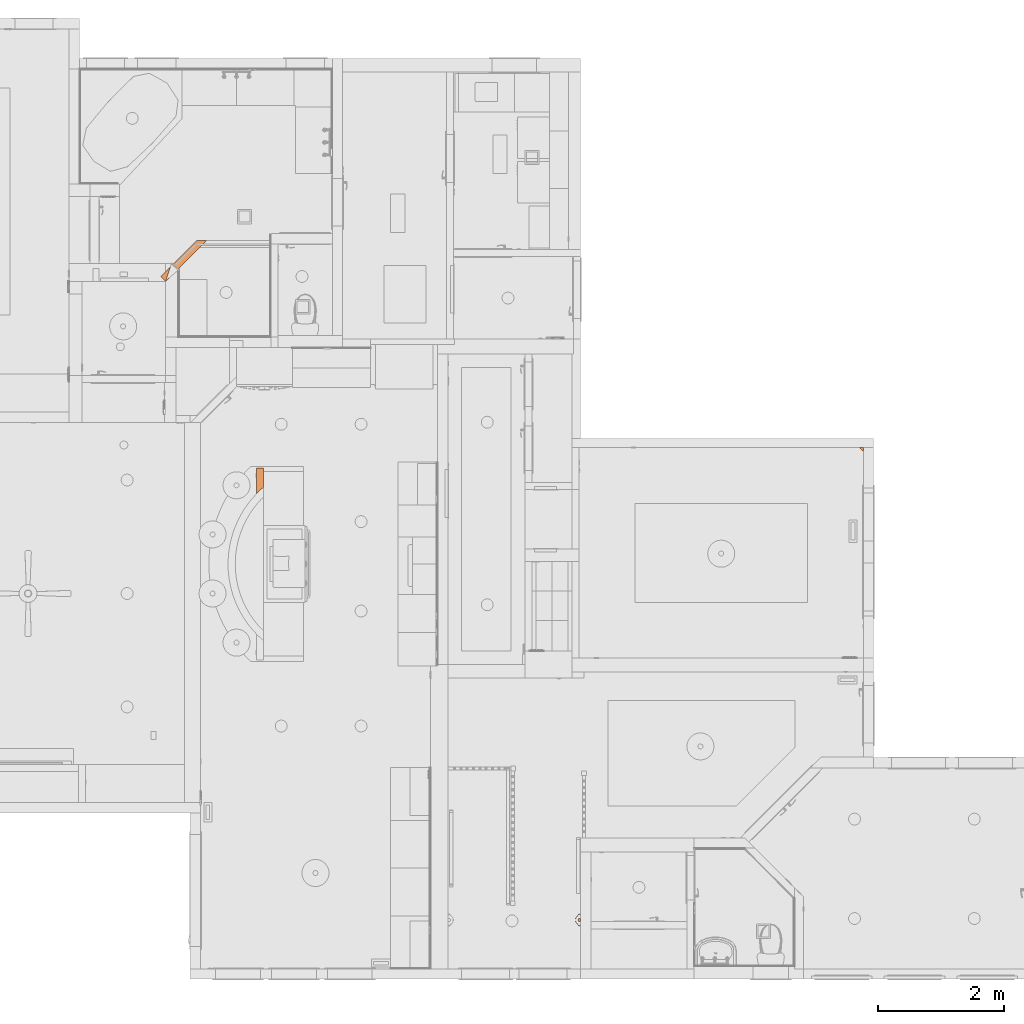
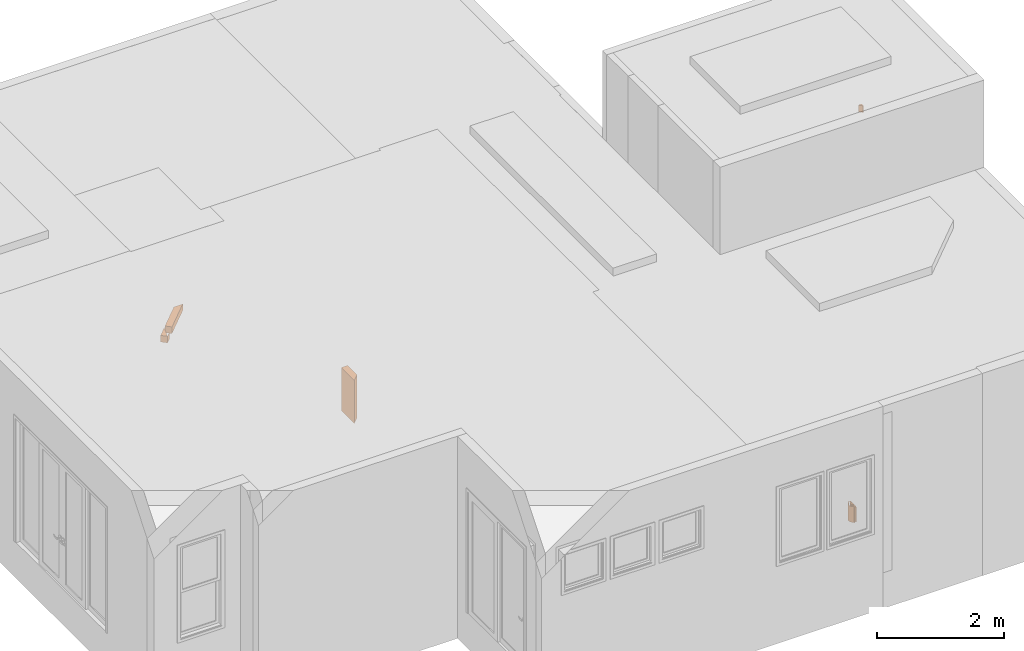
# One storey, part 103 of 103: 4 proxies.
"""IFC2X3 building model written with IfcOpenShell, lengths in inches."""

import ifcopenshell
import ifcopenshell.guid

model = None  # the IFC model being written
_history = None  # IfcOwnerHistory: only IFC2X3 demands one
_inside = {}  # id of a spatial element -> (the spatial element, [elements in it])
_under = {}  # id of a project, library or spatial element -> (it, [spatial elements below it])
_declared = {}  # id of a project -> (the project, [libraries it declares])
_typed = {}  # id of a type object -> (the type object, [elements of that type])
_made_of = {}  # id of a material, layer set ... -> (it, [elements and type objects made of it])


def new_model(schema):
    """Start an empty IFC model of exactly this schema.

    Asked for "IFC4X3", IfcOpenShell would pick the latest addendum, in which some entities
    have other attributes; the version numbers below select the first issue.
    IFC2X3 requires an IfcOwnerHistory on every rooted entity: one is made here for all.
    """
    global model, _history
    if schema == "IFC4X3":
        model = ifcopenshell.file(schema_version=(4, 3, 0, 0))
    else:
        model = ifcopenshell.file(schema=schema)
    _inside.clear()
    _under.clear()
    _declared.clear()
    _typed.clear()
    _made_of.clear()
    _history = None
    if model.schema == "IFC2X3":
        org = make("IfcOrganization", Name="unknown")
        user = make(
            "IfcPersonAndOrganization",
            ThePerson=make("IfcPerson", FamilyName="unknown"),
            TheOrganization=org,
        )
        app = make(
            "IfcApplication",
            ApplicationDeveloper=org,
            Version="unknown",
            ApplicationFullName="unknown",
            ApplicationIdentifier="unknown",
        )
        _history = make(
            "IfcOwnerHistory",
            OwningUser=user,
            OwningApplication=app,
            ChangeAction="ADDED",
            CreationDate=0,
        )
    return model


def make(cls, **values):
    """One entity of the class cls with the attributes given. An attribute that is None is left unset."""
    return model.create_entity(
        cls, **{name: value for name, value in values.items() if value is not None}
    )


def entity(cls, *values):
    """Any entity or typed value of the class cls, its attributes in the order of the schema. None: left unset."""
    e = model.create_entity(cls)
    for i, value in enumerate(values):
        if value is not None:
            e[i] = value
    return e


def rooted(cls, **values):
    """An entity with a GlobalId (a new one), such as an element, a storey or a relation."""
    return make(cls, GlobalId=ifcopenshell.guid.new(), OwnerHistory=_history, **values)


def si_unit(unit_type, name, prefix=None):
    """IfcSIUnit, for example si_unit("LENGTHUNIT", "METRE", prefix="MILLI")."""
    return make("IfcSIUnit", UnitType=unit_type, Prefix=prefix, Name=name)


def converted_unit(unit_type, name, factor, base, dimensions=None, offset=None):
    """IfcConversionBasedUnit, such as the inch: factor (a typed value) times the base unit."""
    return make(
        "IfcConversionBasedUnit"
        if offset is None
        else "IfcConversionBasedUnitWithOffset",
        ConversionOffset=offset,
        Dimensions=None
        if dimensions is None
        else entity("IfcDimensionalExponents", *dimensions),
        UnitType=unit_type,
        Name=name,
        ConversionFactor=make(
            "IfcMeasureWithUnit", ValueComponent=factor, UnitComponent=base
        ),
    )


def derived_unit(unit_type, elements):
    """IfcDerivedUnit: a product of units, each with its exponent."""
    return make(
        "IfcDerivedUnit",
        Elements=[
            make("IfcDerivedUnitElement", Unit=unit, Exponent=power)
            for unit, power in elements
        ],
        UnitType=unit_type,
    )


def money_unit(currency):
    """IfcMonetaryUnit."""
    return make("IfcMonetaryUnit", Currency=currency)


def assignment(units):
    """IfcUnitAssignment: the units of a project."""
    return None if units is None else make("IfcUnitAssignment", Units=units)


def point(xyz):
    """IfcCartesianPoint."""
    return None if xyz is None else make("IfcCartesianPoint", Coordinates=xyz)


def direction(xyz):
    """IfcDirection."""
    return None if xyz is None else make("IfcDirection", DirectionRatios=xyz)


def frame(location, z_axis=None, x_axis=None):
    """IfcAxis2Placement3D, a coordinate frame: its origin and axes. An axis left out is left unset."""
    return make(
        "IfcAxis2Placement3D",
        Location=point(location),
        Axis=direction(z_axis),
        RefDirection=direction(x_axis),
    )


def origin_with_axes():
    """The frame at (0, 0, 0) with the z axis (0, 0, 1) and the x axis (1, 0, 0) written out."""
    return frame((0.0, 0.0, 0.0), z_axis=(0.0, 0.0, 1.0), x_axis=(1.0, 0.0, 0.0))


def place(relative_to, where):
    """IfcLocalPlacement: puts the frame where relative to a parent placement (None: the world)."""
    return make(
        "IfcLocalPlacement", PlacementRelTo=relative_to, RelativePlacement=where
    )


def context(
    kind, dimensions, precision=None, world=None, true_north=None, identifier=None
):
    """IfcGeometricRepresentationContext, for example the 3D "Model" context."""
    return make(
        "IfcGeometricRepresentationContext",
        ContextIdentifier=identifier,
        ContextType=kind,
        CoordinateSpaceDimension=dimensions,
        Precision=precision,
        WorldCoordinateSystem=world,
        TrueNorth=true_north,
    )


def subcontext(parent, identifier, kind, view, scale=None):
    """IfcGeometricRepresentationSubContext, for example "Body" below "Model"."""
    return make(
        "IfcGeometricRepresentationSubContext",
        ContextIdentifier=identifier,
        ContextType=kind,
        ParentContext=parent,
        TargetScale=scale,
        TargetView=view,
    )


def project(units=None, contexts=None):
    """IfcProject with its units and contexts."""
    return rooted(
        "IfcProject",
        Name="project",
        RepresentationContexts=contexts,
        UnitsInContext=assignment(units),
    )


def spatial(cls, under=None, at=None, **own):
    """A site, building, storey or space (cls), placed at a placement, below another one or the project."""
    s = rooted(cls, ObjectPlacement=at, **own)
    if under is not None:
        _under.setdefault(under.id(), (under, []))[1].append(s)
    return s


def faces_of(points, faces, orient=None, outer=None):
    """IfcFace entities. A face is a list of loops; a loop is a list of indices into points, from 0.

    orient and outer hold one flag for each loop. By default every Orientation is true, the
    first loop of a face is its IfcFaceOuterBound and the others are IfcFaceBound.
    """
    made = []
    for i, loops in enumerate(faces):
        bounds = []
        for j, loop in enumerate(loops):
            is_outer = j == 0 if outer is None else outer[i][j]
            bounds.append(
                make(
                    "IfcFaceOuterBound" if is_outer else "IfcFaceBound",
                    Bound=make("IfcPolyLoop", Polygon=[points[k] for k in loop]),
                    Orientation=True if orient is None else orient[i][j],
                )
            )
        made.append(make("IfcFace", Bounds=bounds))
    return made


def faceted_brep(points, faces, orient=None, outer=None, voids=None):
    """IfcFacetedBrep: a solid bounded by flat faces; with voids (closed shells), ...WithVoids."""
    shared = [point(p) for p in points]
    hull = make("IfcClosedShell", CfsFaces=faces_of(shared, faces, orient, outer))
    if voids is None:
        return make("IfcFacetedBrep", Outer=hull)
    return make(
        "IfcFacetedBrepWithVoids",
        Outer=hull,
        Voids=[
            make(cls, CfsFaces=faces_of(shared, fs, o, b)) for cls, fs, o, b in voids
        ],
    )


def shape(context_of_items, identifier, shape_type, items):
    """IfcShapeRepresentation: the items that make up one representation, for example the "Body"."""
    return make(
        "IfcShapeRepresentation",
        ContextOfItems=context_of_items,
        RepresentationIdentifier=identifier,
        RepresentationType=shape_type,
        Items=items,
    )


def material(Name=None, Category=None):
    """IfcMaterial."""
    return make("IfcMaterial", Name=Name, Category=Category)


def made_of(thing, what):
    """Note that an element or type object is made of a material, layer set ...; save() writes the relation."""
    if what is not None:
        _made_of.setdefault(what.id(), (what, []))[1].append(thing)
    return thing


def type_object(cls, material=None, **own):
    """A type object (cls), such as IfcWallType, which elements share."""
    return made_of(rooted(cls, **own), material)


def element(
    cls,
    number,
    at=None,
    inside=None,
    cuts=None,
    type_object=None,
    material=None,
    context=None,
    identifier="Body",
    shape_type=None,
    held_by="IfcProductDefinitionShape",
    body=None,
    shapes=None,
    **own,
):
    """One element of the class cls, such as IfcWall. Its Tag is "e" and its number.

    at: its placement. inside: the storey or other place that contains it. cuts: it is an
    opening in that element (IfcRelVoidsElement). A single representation is given by context,
    identifier, shape_type and body (its items); several are given by shapes. held_by: the class
    of the entity that holds the representations. save() writes the other relations.
    """
    e = rooted(cls, Tag="e%d" % number, ObjectPlacement=at, **own)
    if body is not None:
        shapes = [shape(context, identifier, shape_type, body)]
    if shapes is not None:
        e.Representation = make(held_by, Representations=shapes)
    if inside is not None:
        _inside.setdefault(inside.id(), (inside, []))[1].append(e)
    if cuts is not None:
        rooted(
            "IfcRelVoidsElement", RelatingBuildingElement=cuts, RelatedOpeningElement=e
        )
    if type_object is not None:
        _typed.setdefault(type_object.id(), (type_object, []))[1].append(e)
    return made_of(e, material)


def aggregate(whole, parts):
    """IfcRelAggregates: a whole, such as a stair, and the parts it consists of."""
    return rooted("IfcRelAggregates", RelatingObject=whole, RelatedObjects=parts)


def save(model, path):
    """Write the relations noted so far, then the file.

    IfcRelAggregates (storeys below a building ...), IfcRelContainedInSpatialStructure (elements
    in a storey), IfcRelDefinesByType, IfcRelAssociatesMaterial and IfcRelDeclares: one each for
    every whole, place, type object, material and project.
    """
    for whole, parts in _under.values():
        aggregate(whole, parts)
    for where, things in _inside.values():
        rooted(
            "IfcRelContainedInSpatialStructure",
            RelatedElements=things,
            RelatingStructure=where,
        )
    for kind, things in _typed.values():
        rooted("IfcRelDefinesByType", RelatedObjects=things, RelatingType=kind)
    for what, things in _made_of.values():
        rooted("IfcRelAssociatesMaterial", RelatedObjects=things, RelatingMaterial=what)
    for by, libraries in _declared.values():
        rooted("IfcRelDeclares", RelatingContext=by, RelatedDefinitions=libraries)
    model.write(path)


model = new_model("IFC2X3")

# Units and contexts
model_context = context("Model", 3, precision=0.00039370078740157, world=origin_with_axes(), true_north=direction((0.0, 1.0)))
plan_context = context("Plan", 3, precision=0.00039370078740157, world=origin_with_axes(), true_north=direction((0.0, 1.0)))
body_context = subcontext(model_context, "Body", "Model", "MODEL_VIEW")
ifc_project = project(units=[converted_unit("LENGTHUNIT", "INCH", entity("IfcPositiveLengthMeasure", 0.0254), si_unit("LENGTHUNIT", "METRE"), dimensions=[1, 0, 0, 0, 0, 0, 0]), converted_unit("AREAUNIT", "SQUARE_FOOT", entity("IfcPositiveLengthMeasure", 0.09290304), si_unit("AREAUNIT", "SQUARE_METRE"), dimensions=[2, 0, 0, 0, 0, 0, 0]), si_unit("PLANEANGLEUNIT", "RADIAN"), si_unit("SOLIDANGLEUNIT", "STERADIAN"), money_unit("USD"), converted_unit("TIMEUNIT", "Year", entity("IfcTimeMeasure", 31557600.0), si_unit("TIMEUNIT", "SECOND"), dimensions=[0, 0, 1, 0, 0, 0, 0]), si_unit("MASSUNIT", "GRAM", prefix="KILO"), si_unit("THERMODYNAMICTEMPERATUREUNIT", "DEGREE_CELSIUS"), si_unit("LUMINOUSINTENSITYUNIT", "LUMEN"), si_unit("ENERGYUNIT", "JOULE", prefix="MEGA"), derived_unit("SPECIFICHEATCAPACITYUNIT", [(si_unit("ENERGYUNIT", "JOULE"), 1), (si_unit("MASSUNIT", "GRAM", prefix="KILO"), -1), (si_unit("THERMODYNAMICTEMPERATUREUNIT", "KELVIN"), -1)])], contexts=[model_context, plan_context])

# Site, building, storey
site_placement = place(None, origin_with_axes())
site = spatial("IfcSite", under=ifc_project, at=site_placement, Name="Site", CompositionType="ELEMENT")
building_placement = place(site_placement, origin_with_axes())
building = spatial("IfcBuilding", under=site, at=building_placement, Name="Building", CompositionType="ELEMENT")
storey_placement = place(building_placement, frame((0.0, 0.0, 127.9999999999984), z_axis=(0.0, 0.0, 1.0), x_axis=(1.0, 0.0, 0.0)))
storey = spatial("IfcBuildingStorey", under=building, at=storey_placement, Name="Second Floor", CompositionType="ELEMENT", Elevation=128.0)

# Proxies
ifc_material = material(Name="Generic - Structural")
building_element_proxy_type_1 = type_object("IfcBuildingElementProxyType", Name="Generic - Structural 4 1/2\"", PredefinedType="NOTDEFINED")
proxy_1_placement = place(storey_placement, frame((45.99966176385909, 301.9951834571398, -5.999999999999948), z_axis=(0.0, 0.0, 1.0), x_axis=(0.0, 1.0, 0.0)))
element("IfcBuildingElementProxy", 1, at=proxy_1_placement, inside=storey, type_object=building_element_proxy_type_1, material=ifc_material, Name="SW - 120", context=body_context, shape_type="Brep", body=[
    faceted_brep([(6.085956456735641, 0.0, 38.4978682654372), (6.085956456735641, 0.0, 5.999999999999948), (17.99999999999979, 0.0, 5.999999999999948), (17.99999999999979, 0.0, 38.4978682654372), (5.044919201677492, 1.265502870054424, 38.4978682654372), (5.044919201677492, 1.265502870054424, 5.999999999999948), (1.901869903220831, 4.499999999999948, 5.999999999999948), (17.99999999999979, 4.499999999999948, 5.999999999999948), (3.227275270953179, 3.136031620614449, 5.999999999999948), (17.99999999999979, 4.499999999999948, 38.4978682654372), (1.901869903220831, 4.499999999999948, 38.4978682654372), (3.227275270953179, 3.136031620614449, 38.4978682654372)], [[[0, 1, 2, 3]], [[4, 5, 1, 0]], [[6, 7, 2, 1, 5, 8]], [[3, 2, 7, 9]], [[9, 10, 11, 4, 0, 3]], [[11, 8, 5, 4]], [[9, 7, 6, 10]], [[10, 6, 8, 11]]]),
])
proxy_2_placement = place(storey_placement, frame((-7.843438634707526, 444.3240572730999, -5.99999999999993), z_axis=(0.0, 0.0, 1.0), x_axis=(0.7071067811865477, 0.7071067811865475, 0.0)))
element("IfcBuildingElementProxy", 2, at=proxy_2_placement, inside=storey, type_object=building_element_proxy_type_1, material=ifc_material, Name="SW - 137", context=body_context, shape_type="Brep", body=[
    faceted_brep([(-10.50484508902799, 0.0, 10.99999999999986), (-10.50484508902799, 0.0, 5.99999999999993), (-6.307748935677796, 4.656292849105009e-10, 5.99999999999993), (-6.30774893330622, 0.0, 10.99999999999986), (-10.64172000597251, 4.499999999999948, 10.99999999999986), (-10.64172000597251, 4.499999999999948, 5.99999999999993), (-1.87419043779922, 4.499999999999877, 5.99999999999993), (-10.22995509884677, 0.292422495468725, 5.99999999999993), (-10.22995509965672, 0.2924224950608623, 10.99999999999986), (-1.87419043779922, 4.499999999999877, 10.99999999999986)], [[[0, 1, 2, 3]], [[1, 0, 4, 5]], [[5, 6, 7, 2, 1]], [[2, 7, 8, 3]], [[0, 3, 8, 9, 4]], [[5, 4, 9, 6]], [[8, 7, 6, 9]]]),
    faceted_brep([(1.094606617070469e-05, -8.340484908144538e-10, 10.99999999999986), (1.093592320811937e-05, 3.326341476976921e-07, 5.99999999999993), (25.70466019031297, 0.0, 5.99999999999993), (25.70466019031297, 0.0, 10.99999999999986), (-0.1368639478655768, 4.499999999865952, 10.99999999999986), (-0.1368639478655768, 4.499999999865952, 5.99999999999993), (0.0, 4.499999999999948, 5.99999999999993), (21.20466019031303, 4.499999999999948, 5.99999999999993), (21.20466019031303, 4.499999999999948, 10.99999999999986)], [[[0, 1, 2, 3]], [[4, 5, 1, 0]], [[6, 7, 2, 1, 5]], [[3, 2, 7, 8]], [[3, 8, 4, 0]], [[8, 7, 6, 5, 4]]]),
])
building_element_proxy_type_2 = type_object("IfcBuildingElementProxyType", Name="Wall Lamp", PredefinedType="NOTDEFINED")
proxy_3_placement = place(storey_placement, frame((244.4999999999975, 37.07838519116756, 17.99999999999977), z_axis=(0.0, 0.0, 1.0), x_axis=(0.0, -1.0, 0.0)))
element("IfcBuildingElementProxy", 3, at=proxy_3_placement, inside=storey, type_object=building_element_proxy_type_2, Name="L-17", context=body_context, shape_type="Brep", body=[
    faceted_brep([(-3.9370078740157, -1.062992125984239, 0.0), (-3.9370078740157, -1.062992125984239, 11.99999999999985), (-3.591991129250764, -1.063143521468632, 11.99999999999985), (-3.591991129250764, -1.063143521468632, 0.0), (-3.9370078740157, -1.18110236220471, 0.0), (-3.9370078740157, -1.18110236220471, 11.99999999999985), (-3.54330708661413, -1.18110236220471, 11.99999999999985), (-3.389692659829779, -1.196232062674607, 11.99999999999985), (-3.241981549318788, -1.241039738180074, 11.99999999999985), (-3.105850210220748, -1.31380345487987, 11.99999999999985), (-2.986530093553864, -1.411726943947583, 11.99999999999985), (-2.669665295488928, -1.945564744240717, 11.99999999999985), (-2.258517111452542, -2.410691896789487, 11.99999999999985), (-1.767605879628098, -2.790681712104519, 11.99999999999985), (-1.214268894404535, -3.072114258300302, 11.99999999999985), (-0.6180481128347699, -3.245050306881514, 11.99999999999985), (0.0, -3.30338235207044, 11.99999999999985), (0.0, -3.14960629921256, 11.99999999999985), (-0.5658852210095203, -3.098353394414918, 11.99999999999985), (-1.113353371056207, -2.946262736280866, 11.99999999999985), (-1.624586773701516, -2.698284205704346, 11.99999999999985), (-2.082947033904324, -2.362488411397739, 11.99999999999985), (-2.47351654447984, -1.949804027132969, 11.99999999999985), (-2.783583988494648, -1.473662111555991, 11.99999999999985), (-2.903069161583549, -1.326520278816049, 11.99999999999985), (-3.050535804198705, -1.207436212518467, 11.99999999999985), (-3.219538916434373, -1.121614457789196, 11.99999999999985), (-3.402692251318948, -1.072805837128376, 11.99999999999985), (-3.402692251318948, -1.072805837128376, 0.0), (-3.219538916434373, -1.121614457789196, 0.0), (-3.050535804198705, -1.207436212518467, 0.0), (-2.903069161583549, -1.326520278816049, 0.0), (-2.783583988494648, -1.473662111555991, 0.0), (-2.47351654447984, -1.949804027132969, 0.0), (-2.082947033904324, -2.362488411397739, 0.0), (-1.624586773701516, -2.698284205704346, 0.0), (-1.113353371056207, -2.946262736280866, 0.0), (-0.5658852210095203, -3.098353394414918, 0.0), (0.0, -3.14960629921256, 0.0), (0.0, -3.30338235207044, 0.0), (-0.6180481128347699, -3.245050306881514, 0.0), (-1.214268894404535, -3.072114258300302, 0.0), (-1.767605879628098, -2.790681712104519, 0.0), (-2.258517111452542, -2.410691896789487, 0.0), (-2.669665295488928, -1.945564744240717, 0.0), (-2.986530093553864, -1.411726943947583, 0.0), (-3.105850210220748, -1.31380345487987, 0.0), (-3.241981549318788, -1.241039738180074, 0.0), (-3.389692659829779, -1.196232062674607, 0.0), (-3.54330708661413, -1.18110236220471, 0.0)], [[[0, 1, 2, 3]], [[4, 5, 1, 0]], [[1, 5, 6, 7, 8, 9, 10, 11, 12, 13, 14, 15, 16, 17, 18, 19, 20, 21, 22, 23, 24, 25, 26, 27, 2]], [[3, 2, 27, 28]], [[0, 3, 28, 29, 30, 31, 32, 33, 34, 35, 36, 37, 38, 39, 40, 41, 42, 43, 44, 45, 46, 47, 48, 49, 4]], [[49, 6, 5, 4]], [[48, 7, 6, 49]], [[47, 8, 7, 48]], [[46, 9, 8, 47]], [[45, 10, 9, 46]], [[44, 11, 10, 45]], [[43, 12, 11, 44]], [[42, 13, 12, 43]], [[41, 14, 13, 42]], [[40, 15, 14, 41]], [[39, 16, 15, 40]], [[38, 17, 16, 39]], [[37, 18, 17, 38]], [[36, 19, 18, 37]], [[35, 20, 19, 36]], [[34, 21, 20, 35]], [[33, 22, 21, 34]], [[32, 23, 22, 33]], [[31, 24, 23, 32]], [[30, 25, 24, 31]], [[29, 26, 25, 30]], [[28, 27, 26, 29]]]),
    faceted_brep([(3.9370078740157, -1.062992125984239, 0.0), (3.591991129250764, -1.063143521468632, 0.0), (3.591991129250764, -1.063143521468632, 11.99999999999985), (3.9370078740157, -1.062992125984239, 11.99999999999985), (3.9370078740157, -1.18110236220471, 0.0), (3.54330708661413, -1.18110236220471, 0.0), (3.389692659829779, -1.196232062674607, 0.0), (3.241981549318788, -1.241039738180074, 0.0), (3.105850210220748, -1.31380345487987, 0.0), (2.986530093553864, -1.411726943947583, 0.0), (2.669665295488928, -1.945564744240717, 0.0), (2.258517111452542, -2.410691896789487, 0.0), (1.767605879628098, -2.790681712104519, 0.0), (1.214268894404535, -3.072114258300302, 0.0), (0.6180481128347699, -3.245050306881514, 0.0), (0.0, -3.30338235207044, 0.0), (0.0, -3.14960629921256, 0.0), (0.5658852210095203, -3.098353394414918, 0.0), (1.113353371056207, -2.946262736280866, 0.0), (1.624586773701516, -2.698284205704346, 0.0), (2.082947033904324, -2.362488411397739, 0.0), (2.47351654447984, -1.949804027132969, 0.0), (2.783583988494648, -1.473662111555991, 0.0), (2.903069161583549, -1.326520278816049, 0.0), (3.050535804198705, -1.207436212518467, 0.0), (3.219538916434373, -1.121614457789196, 0.0), (3.402692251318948, -1.072805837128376, 0.0), (3.402692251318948, -1.072805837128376, 11.99999999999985), (3.219538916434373, -1.121614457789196, 11.99999999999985), (3.050535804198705, -1.207436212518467, 11.99999999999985), (2.903069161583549, -1.326520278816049, 11.99999999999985), (2.783583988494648, -1.473662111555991, 11.99999999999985), (2.47351654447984, -1.949804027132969, 11.99999999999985), (2.082947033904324, -2.362488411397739, 11.99999999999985), (1.624586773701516, -2.698284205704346, 11.99999999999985), (1.113353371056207, -2.946262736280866, 11.99999999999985), (0.5658852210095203, -3.098353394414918, 11.99999999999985), (0.0, -3.14960629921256, 11.99999999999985), (0.0, -3.30338235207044, 11.99999999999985), (0.6180481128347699, -3.245050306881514, 11.99999999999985), (1.214268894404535, -3.072114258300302, 11.99999999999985), (1.767605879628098, -2.790681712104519, 11.99999999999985), (2.258517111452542, -2.410691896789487, 11.99999999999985), (2.669665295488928, -1.945564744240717, 11.99999999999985), (2.986530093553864, -1.411726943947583, 11.99999999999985), (3.105850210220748, -1.31380345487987, 11.99999999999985), (3.241981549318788, -1.241039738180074, 11.99999999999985), (3.389692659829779, -1.196232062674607, 11.99999999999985), (3.54330708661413, -1.18110236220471, 11.99999999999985), (3.9370078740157, -1.18110236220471, 11.99999999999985)], [[[0, 1, 2, 3]], [[0, 4, 5, 6, 7, 8, 9, 10, 11, 12, 13, 14, 15, 16, 17, 18, 19, 20, 21, 22, 23, 24, 25, 26, 1]], [[1, 26, 27, 2]], [[3, 2, 27, 28, 29, 30, 31, 32, 33, 34, 35, 36, 37, 38, 39, 40, 41, 42, 43, 44, 45, 46, 47, 48, 49]], [[4, 0, 3, 49]], [[5, 4, 49, 48]], [[6, 5, 48, 47]], [[7, 6, 47, 46]], [[8, 7, 46, 45]], [[9, 8, 45, 44]], [[10, 9, 44, 43]], [[11, 10, 43, 42]], [[12, 11, 42, 41]], [[13, 12, 41, 40]], [[14, 13, 40, 39]], [[15, 14, 39, 38]], [[16, 15, 38, 37]], [[17, 16, 37, 36]], [[18, 17, 36, 35]], [[19, 18, 35, 34]], [[20, 19, 34, 33]], [[21, 20, 33, 32]], [[22, 21, 32, 31]], [[23, 22, 31, 30]], [[24, 23, 30, 29]], [[25, 24, 29, 28]], [[26, 25, 28, 27]]]),
    faceted_brep([(-3.14960629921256, 0.0, 0.0), (3.14960629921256, 0.0, 0.0), (3.14960629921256, -0.039370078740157, 0.0), (-3.14960629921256, -0.039370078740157, 0.0), (-3.303220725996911, 0.0, 0.01512970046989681), (-3.450931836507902, 0.0, 0.05993737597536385), (-3.587063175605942, 0.0, 0.1327010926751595), (-3.706383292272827, 0.0, 0.230624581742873), (-3.80430678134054, 0.0, 0.3499446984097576), (-3.877070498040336, 0.0, 0.4860760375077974), (-3.921878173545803, 0.0, 0.633787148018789), (-3.9370078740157, 0.0, 0.78740157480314), (-3.9370078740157, 0.0, 11.21259842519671), (-3.921878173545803, 0.0, 11.36621285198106), (-3.877070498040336, 0.0, 11.51392396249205), (-3.80430678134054, 0.0, 11.65005530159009), (-3.706383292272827, 0.0, 11.76937541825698), (-3.587063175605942, 0.0, 11.86729890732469), (-3.450931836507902, 0.0, 11.94006262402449), (-3.30322072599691, 0.0, 11.98487029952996), (-3.14960629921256, 0.0, 11.99999999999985), (3.14960629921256, 0.0, 11.99999999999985), (3.30322072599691, 0.0, 11.98487029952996), (3.450931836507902, 0.0, 11.94006262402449), (3.587063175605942, 0.0, 11.86729890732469), (3.706383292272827, 0.0, 11.76937541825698), (3.80430678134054, 0.0, 11.65005530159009), (3.877070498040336, 0.0, 11.51392396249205), (3.921878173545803, 0.0, 11.36621285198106), (3.9370078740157, 0.0, 11.21259842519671), (3.9370078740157, 0.0, 0.7874015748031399), (3.921878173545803, 0.0, 0.6337871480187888), (3.877070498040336, 0.0, 0.4860760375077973), (3.80430678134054, 0.0, 0.3499446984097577), (3.706383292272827, 0.0, 0.2306245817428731), (3.587063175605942, 0.0, 0.1327010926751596), (3.450931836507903, 0.0, 0.05993737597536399), (3.303220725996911, 0.0, 0.01512970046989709), (3.303220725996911, -0.039370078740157, 0.01512970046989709), (3.450931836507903, -0.039370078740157, 0.05993737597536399), (3.587063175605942, -0.03937007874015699, 0.1327010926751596), (3.706383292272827, -0.03937007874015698, 0.2306245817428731), (3.80430678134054, -0.03937007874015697, 0.3499446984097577), (3.877070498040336, -0.03937007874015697, 0.4860760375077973), (3.921878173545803, -0.03937007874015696, 0.6337871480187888), (3.9370078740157, -0.03937007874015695, 0.7874015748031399), (3.9370078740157, -0.03937007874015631, 11.21259842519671), (3.921878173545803, -0.0393700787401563, 11.36621285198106), (3.877070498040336, -0.03937007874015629, 11.51392396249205), (3.80430678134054, -0.03937007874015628, 11.65005530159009), (3.706383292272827, -0.03937007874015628, 11.76937541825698), (3.587063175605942, -0.03937007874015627, 11.86729890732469), (3.450931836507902, -0.03937007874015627, 11.94006262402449), (3.30322072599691, -0.03937007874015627, 11.98487029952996), (3.14960629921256, -0.03937007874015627, 11.99999999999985), (-3.14960629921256, -0.03937007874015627, 11.99999999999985), (-3.30322072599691, -0.03937007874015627, 11.98487029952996), (-3.450931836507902, -0.03937007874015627, 11.94006262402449), (-3.587063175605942, -0.03937007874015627, 11.86729890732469), (-3.706383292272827, -0.03937007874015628, 11.76937541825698), (-3.80430678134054, -0.03937007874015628, 11.65005530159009), (-3.877070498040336, -0.03937007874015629, 11.51392396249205), (-3.921878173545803, -0.0393700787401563, 11.36621285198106), (-3.9370078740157, -0.03937007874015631, 11.21259842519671), (-3.9370078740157, -0.03937007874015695, 0.78740157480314), (-3.921878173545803, -0.03937007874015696, 0.633787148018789), (-3.877070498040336, -0.03937007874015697, 0.4860760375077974), (-3.80430678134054, -0.03937007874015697, 0.3499446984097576), (-3.706383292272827, -0.03937007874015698, 0.230624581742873), (-3.587063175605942, -0.03937007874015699, 0.1327010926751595), (-3.450931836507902, -0.039370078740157, 0.05993737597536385), (-3.303220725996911, -0.039370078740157, 0.01512970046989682)], [[[0, 1, 2, 3]], [[0, 4, 5, 6, 7, 8, 9, 10, 11, 12, 13, 14, 15, 16, 17, 18, 19, 20, 21, 22, 23, 24, 25, 26, 27, 28, 29, 30, 31, 32, 33, 34, 35, 36, 37, 1]], [[1, 37, 38, 2]], [[3, 2, 38, 39, 40, 41, 42, 43, 44, 45, 46, 47, 48, 49, 50, 51, 52, 53, 54, 55, 56, 57, 58, 59, 60, 61, 62, 63, 64, 65, 66, 67, 68, 69, 70, 71]], [[4, 0, 3, 71]], [[5, 4, 71, 70]], [[6, 5, 70, 69]], [[7, 6, 69, 68]], [[8, 7, 68, 67]], [[9, 8, 67, 66]], [[10, 9, 66, 65]], [[11, 10, 65, 64]], [[12, 11, 64, 63]], [[13, 12, 63, 62]], [[14, 13, 62, 61]], [[15, 14, 61, 60]], [[16, 15, 60, 59]], [[17, 16, 59, 58]], [[18, 17, 58, 57]], [[19, 18, 57, 56]], [[20, 19, 56, 55]], [[21, 20, 55, 54]], [[22, 21, 54, 53]], [[23, 22, 53, 52]], [[24, 23, 52, 51]], [[25, 24, 51, 50]], [[26, 25, 50, 49]], [[27, 26, 49, 48]], [[28, 27, 48, 47]], [[29, 28, 47, 46]], [[30, 29, 46, 45]], [[31, 30, 45, 44]], [[32, 31, 44, 43]], [[33, 32, 43, 42]], [[34, 33, 42, 41]], [[35, 34, 41, 40]], [[36, 35, 40, 39]], [[37, 36, 39, 38]]]),
    faceted_brep([(-3.661417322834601, -0.03937007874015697, 0.39370078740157), (-3.661417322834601, -1.220472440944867, 0.3937007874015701), (-3.602362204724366, -1.220472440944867, 0.495987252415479), (-3.602362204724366, -0.03937007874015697, 0.4959872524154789), (-3.602362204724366, -0.03937007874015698, 0.291414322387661), (-3.602362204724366, -1.220472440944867, 0.2914143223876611), (-3.484251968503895, -1.220472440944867, 0.2914143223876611), (-3.425196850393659, -1.220472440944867, 0.3937007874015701), (-3.484251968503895, -1.220472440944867, 0.495987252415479), (-3.484251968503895, -0.03937007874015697, 0.495987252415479), (-3.425196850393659, -0.03937007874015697, 0.3937007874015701), (-3.484251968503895, -0.03937007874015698, 0.2914143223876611)], [[[0, 1, 2, 3]], [[4, 5, 1, 0]], [[1, 5, 6, 7, 8, 2]], [[3, 2, 8, 9]], [[0, 3, 9, 10, 11, 4]], [[11, 6, 5, 4]], [[10, 7, 6, 11]], [[9, 8, 7, 10]]]),
    faceted_brep([(3.425196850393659, -0.03937007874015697, 0.39370078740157), (3.425196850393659, -1.220472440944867, 0.3937007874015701), (3.484251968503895, -1.220472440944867, 0.495987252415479), (3.484251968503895, -0.03937007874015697, 0.4959872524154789), (3.484251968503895, -0.03937007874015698, 0.291414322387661), (3.484251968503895, -1.220472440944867, 0.2914143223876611), (3.602362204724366, -1.220472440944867, 0.2914143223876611), (3.661417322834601, -1.220472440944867, 0.3937007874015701), (3.602362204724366, -1.220472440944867, 0.495987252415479), (3.602362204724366, -0.03937007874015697, 0.495987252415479), (3.661417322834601, -0.03937007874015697, 0.3937007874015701), (3.602362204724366, -0.03937007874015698, 0.2914143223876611)], [[[0, 1, 2, 3]], [[4, 5, 1, 0]], [[1, 5, 6, 7, 8, 2]], [[3, 2, 8, 9]], [[0, 3, 9, 10, 11, 4]], [[11, 6, 5, 4]], [[10, 7, 6, 11]], [[9, 8, 7, 10]]]),
    faceted_brep([(-3.661417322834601, -0.03937007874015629, 11.60629921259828), (-3.661417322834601, -1.220472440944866, 11.60629921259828), (-3.602362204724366, -1.220472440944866, 11.70858567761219), (-3.602362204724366, -0.03937007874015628, 11.70858567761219), (-3.602362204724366, -0.03937007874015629, 11.50401274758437), (-3.602362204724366, -1.220472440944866, 11.50401274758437), (-3.484251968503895, -1.220472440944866, 11.50401274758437), (-3.425196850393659, -1.220472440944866, 11.60629921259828), (-3.484251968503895, -1.220472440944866, 11.70858567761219), (-3.484251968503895, -0.03937007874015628, 11.70858567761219), (-3.425196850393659, -0.03937007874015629, 11.60629921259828), (-3.484251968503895, -0.03937007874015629, 11.50401274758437)], [[[0, 1, 2, 3]], [[4, 5, 1, 0]], [[1, 5, 6, 7, 8, 2]], [[3, 2, 8, 9]], [[0, 3, 9, 10, 11, 4]], [[11, 6, 5, 4]], [[10, 7, 6, 11]], [[9, 8, 7, 10]]]),
    faceted_brep([(3.425196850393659, -0.03937007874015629, 11.60629921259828), (3.425196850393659, -1.220472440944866, 11.60629921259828), (3.484251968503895, -1.220472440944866, 11.70858567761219), (3.484251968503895, -0.03937007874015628, 11.70858567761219), (3.484251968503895, -0.03937007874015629, 11.50401274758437), (3.484251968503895, -1.220472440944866, 11.50401274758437), (3.602362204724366, -1.220472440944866, 11.50401274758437), (3.661417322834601, -1.220472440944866, 11.60629921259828), (3.602362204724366, -1.220472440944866, 11.70858567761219), (3.602362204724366, -0.03937007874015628, 11.70858567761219), (3.661417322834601, -0.03937007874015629, 11.60629921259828), (3.602362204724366, -0.03937007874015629, 11.50401274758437)], [[[0, 1, 2, 3]], [[4, 5, 1, 0]], [[1, 5, 6, 7, 8, 2]], [[3, 2, 8, 9]], [[0, 3, 9, 10, 11, 4]], [[11, 6, 5, 4]], [[10, 7, 6, 11]], [[9, 8, 7, 10]]]),
    faceted_brep([(0.7874015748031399, -0.039370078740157, 0.0), (0.7874015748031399, -0.039370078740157, 0.984251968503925), (0.8895785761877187, -0.2087302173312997, 0.984251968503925), (0.8895785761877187, -0.2087302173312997, 0.0), (-0.78740157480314, -0.039370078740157, 0.0), (-0.78740157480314, -0.039370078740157, 0.984251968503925), (-0.889578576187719, -0.2087302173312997, 0.984251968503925), (-0.9558299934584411, -0.3951001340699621, 0.984251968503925), (-0.9834802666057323, -0.5909532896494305, 0.984251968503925), (-0.971412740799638, -0.7883801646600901, 0.984251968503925), (-0.9201147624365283, -0.9794076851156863, 0.984251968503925), (-0.8316579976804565, -1.15632121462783, 0.984251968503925), (-0.7096147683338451, -1.311976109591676, 0.984251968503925), (-0.5589137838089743, -1.440086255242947, 0.984251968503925), (-0.3856410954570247, -1.535477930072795, 0.984251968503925), (-0.1967943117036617, -1.594298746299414, 0.984251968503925), (0.0, -1.614173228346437, 0.984251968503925), (0.1967943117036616, -1.594298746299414, 0.984251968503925), (0.3856410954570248, -1.535477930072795, 0.984251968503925), (0.5589137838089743, -1.440086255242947, 0.984251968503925), (0.7096147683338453, -1.311976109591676, 0.984251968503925), (0.8316579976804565, -1.15632121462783, 0.984251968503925), (0.9201147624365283, -0.979407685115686, 0.984251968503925), (0.971412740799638, -0.7883801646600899, 0.984251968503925), (0.9834802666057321, -0.5909532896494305, 0.984251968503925), (0.9558299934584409, -0.3951001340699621, 0.984251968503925), (0.9558299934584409, -0.3951001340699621, 0.0), (0.9834802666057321, -0.5909532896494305, 0.0), (0.971412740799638, -0.7883801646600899, 0.0), (0.9201147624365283, -0.979407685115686, 0.0), (0.8316579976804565, -1.15632121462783, 0.0), (0.7096147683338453, -1.311976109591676, 0.0), (0.5589137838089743, -1.440086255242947, 0.0), (0.3856410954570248, -1.535477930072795, 0.0), (0.1967943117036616, -1.594298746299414, 0.0), (0.0, -1.614173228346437, 0.0), (-0.1967943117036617, -1.594298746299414, 0.0), (-0.3856410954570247, -1.535477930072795, 0.0), (-0.5589137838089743, -1.440086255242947, 0.0), (-0.7096147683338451, -1.311976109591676, 0.0), (-0.8316579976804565, -1.15632121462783, 0.0), (-0.9201147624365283, -0.9794076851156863, 0.0), (-0.971412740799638, -0.7883801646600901, 0.0), (-0.9834802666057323, -0.5909532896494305, 0.0), (-0.9558299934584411, -0.3951001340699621, 0.0), (-0.889578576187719, -0.2087302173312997, 0.0)], [[[0, 1, 2, 3]], [[4, 5, 1, 0]], [[1, 5, 6, 7, 8, 9, 10, 11, 12, 13, 14, 15, 16, 17, 18, 19, 20, 21, 22, 23, 24, 25, 2]], [[3, 2, 25, 26]], [[0, 3, 26, 27, 28, 29, 30, 31, 32, 33, 34, 35, 36, 37, 38, 39, 40, 41, 42, 43, 44, 45, 4]], [[45, 6, 5, 4]], [[44, 7, 6, 45]], [[43, 8, 7, 44]], [[42, 9, 8, 43]], [[41, 10, 9, 42]], [[40, 11, 10, 41]], [[39, 12, 11, 40]], [[38, 13, 12, 39]], [[37, 14, 13, 38]], [[36, 15, 14, 37]], [[35, 16, 15, 36]], [[34, 17, 16, 35]], [[33, 18, 17, 34]], [[32, 19, 18, 33]], [[31, 20, 19, 32]], [[30, 21, 20, 31]], [[29, 22, 21, 30]], [[28, 23, 22, 29]], [[27, 24, 23, 28]], [[26, 25, 24, 27]]]),
    faceted_brep([(0.7874015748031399, -0.039370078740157, 11.01574803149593), (0.7874015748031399, -0.039370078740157, 11.99999999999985), (0.8895785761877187, -0.2087302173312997, 11.99999999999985), (0.8895785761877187, -0.2087302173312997, 11.01574803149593), (-0.78740157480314, -0.039370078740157, 11.01574803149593), (-0.78740157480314, -0.039370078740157, 11.99999999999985), (-0.889578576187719, -0.2087302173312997, 11.99999999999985), (-0.9558299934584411, -0.3951001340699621, 11.99999999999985), (-0.9834802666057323, -0.5909532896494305, 11.99999999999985), (-0.971412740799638, -0.7883801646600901, 11.99999999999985), (-0.9201147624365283, -0.9794076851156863, 11.99999999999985), (-0.8316579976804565, -1.15632121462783, 11.99999999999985), (-0.7096147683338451, -1.311976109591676, 11.99999999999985), (-0.5589137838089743, -1.440086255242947, 11.99999999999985), (-0.3856410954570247, -1.535477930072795, 11.99999999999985), (-0.1967943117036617, -1.594298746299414, 11.99999999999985), (0.0, -1.614173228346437, 11.99999999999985), (0.1967943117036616, -1.594298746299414, 11.99999999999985), (0.3856410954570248, -1.535477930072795, 11.99999999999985), (0.5589137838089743, -1.440086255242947, 11.99999999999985), (0.7096147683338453, -1.311976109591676, 11.99999999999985), (0.8316579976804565, -1.15632121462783, 11.99999999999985), (0.9201147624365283, -0.979407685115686, 11.99999999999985), (0.971412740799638, -0.7883801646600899, 11.99999999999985), (0.9834802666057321, -0.5909532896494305, 11.99999999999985), (0.9558299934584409, -0.3951001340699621, 11.99999999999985), (0.9558299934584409, -0.3951001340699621, 11.01574803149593), (0.9834802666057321, -0.5909532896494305, 11.01574803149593), (0.971412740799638, -0.7883801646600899, 11.01574803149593), (0.9201147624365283, -0.979407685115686, 11.01574803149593), (0.8316579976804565, -1.15632121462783, 11.01574803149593), (0.7096147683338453, -1.311976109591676, 11.01574803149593), (0.5589137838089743, -1.440086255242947, 11.01574803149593), (0.3856410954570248, -1.535477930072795, 11.01574803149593), (0.1967943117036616, -1.594298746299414, 11.01574803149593), (0.0, -1.614173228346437, 11.01574803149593), (-0.1967943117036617, -1.594298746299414, 11.01574803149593), (-0.3856410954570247, -1.535477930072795, 11.01574803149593), (-0.5589137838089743, -1.440086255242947, 11.01574803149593), (-0.7096147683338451, -1.311976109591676, 11.01574803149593), (-0.8316579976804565, -1.15632121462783, 11.01574803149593), (-0.9201147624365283, -0.9794076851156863, 11.01574803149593), (-0.971412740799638, -0.7883801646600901, 11.01574803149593), (-0.9834802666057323, -0.5909532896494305, 11.01574803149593), (-0.9558299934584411, -0.3951001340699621, 11.01574803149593), (-0.889578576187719, -0.2087302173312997, 11.01574803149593)], [[[0, 1, 2, 3]], [[4, 5, 1, 0]], [[1, 5, 6, 7, 8, 9, 10, 11, 12, 13, 14, 15, 16, 17, 18, 19, 20, 21, 22, 23, 24, 25, 2]], [[3, 2, 25, 26]], [[0, 3, 26, 27, 28, 29, 30, 31, 32, 33, 34, 35, 36, 37, 38, 39, 40, 41, 42, 43, 44, 45, 4]], [[45, 6, 5, 4]], [[44, 7, 6, 45]], [[43, 8, 7, 44]], [[42, 9, 8, 43]], [[41, 10, 9, 42]], [[40, 11, 10, 41]], [[39, 12, 11, 40]], [[38, 13, 12, 39]], [[37, 14, 13, 38]], [[36, 15, 14, 37]], [[35, 16, 15, 36]], [[34, 17, 16, 35]], [[33, 18, 17, 34]], [[32, 19, 18, 33]], [[31, 20, 19, 32]], [[30, 21, 20, 31]], [[29, 22, 21, 30]], [[28, 23, 22, 29]], [[27, 24, 23, 28]], [[26, 25, 24, 27]]]),
    faceted_brep([(0.7874015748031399, -0.039370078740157, 0.984251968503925), (0.7874015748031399, -0.039370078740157, 11.01574803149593), (0.8895785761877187, -0.2087302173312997, 11.01574803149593), (0.8895785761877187, -0.2087302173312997, 0.984251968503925), (-0.78740157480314, -0.039370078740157, 0.984251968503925), (-0.78740157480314, -0.039370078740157, 11.01574803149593), (-0.889578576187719, -0.2087302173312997, 11.01574803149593), (-0.9558299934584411, -0.3951001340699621, 11.01574803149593), (-0.9834802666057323, -0.5909532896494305, 11.01574803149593), (-0.971412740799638, -0.7883801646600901, 11.01574803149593), (-0.9201147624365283, -0.9794076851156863, 11.01574803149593), (-0.8316579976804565, -1.15632121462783, 11.01574803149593), (-0.7096147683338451, -1.311976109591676, 11.01574803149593), (-0.5589137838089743, -1.440086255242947, 11.01574803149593), (-0.3856410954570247, -1.535477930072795, 11.01574803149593), (-0.1967943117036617, -1.594298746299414, 11.01574803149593), (0.0, -1.614173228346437, 11.01574803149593), (0.1967943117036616, -1.594298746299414, 11.01574803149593), (0.3856410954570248, -1.535477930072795, 11.01574803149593), (0.5589137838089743, -1.440086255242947, 11.01574803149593), (0.7096147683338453, -1.311976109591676, 11.01574803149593), (0.8316579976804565, -1.15632121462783, 11.01574803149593), (0.9201147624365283, -0.979407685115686, 11.01574803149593), (0.971412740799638, -0.7883801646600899, 11.01574803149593), (0.9834802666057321, -0.5909532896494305, 11.01574803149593), (0.9558299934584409, -0.3951001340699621, 11.01574803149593), (0.9558299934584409, -0.3951001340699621, 0.984251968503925), (0.9834802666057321, -0.5909532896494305, 0.984251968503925), (0.971412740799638, -0.7883801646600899, 0.984251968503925), (0.9201147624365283, -0.979407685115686, 0.984251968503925), (0.8316579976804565, -1.15632121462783, 0.984251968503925), (0.7096147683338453, -1.311976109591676, 0.984251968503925), (0.5589137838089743, -1.440086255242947, 0.984251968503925), (0.3856410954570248, -1.535477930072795, 0.984251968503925), (0.1967943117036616, -1.594298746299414, 0.984251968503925), (0.0, -1.614173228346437, 0.984251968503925), (-0.1967943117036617, -1.594298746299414, 0.984251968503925), (-0.3856410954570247, -1.535477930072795, 0.984251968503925), (-0.5589137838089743, -1.440086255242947, 0.984251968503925), (-0.7096147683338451, -1.311976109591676, 0.984251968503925), (-0.8316579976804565, -1.15632121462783, 0.984251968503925), (-0.9201147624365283, -0.9794076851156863, 0.984251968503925), (-0.971412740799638, -0.7883801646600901, 0.984251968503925), (-0.9834802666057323, -0.5909532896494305, 0.984251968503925), (-0.9558299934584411, -0.3951001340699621, 0.984251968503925), (-0.889578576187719, -0.2087302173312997, 0.984251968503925)], [[[0, 1, 2, 3]], [[4, 5, 1, 0]], [[1, 5, 6, 7, 8, 9, 10, 11, 12, 13, 14, 15, 16, 17, 18, 19, 20, 21, 22, 23, 24, 25, 2]], [[3, 2, 25, 26]], [[0, 3, 26, 27, 28, 29, 30, 31, 32, 33, 34, 35, 36, 37, 38, 39, 40, 41, 42, 43, 44, 45, 4]], [[45, 6, 5, 4]], [[44, 7, 6, 45]], [[43, 8, 7, 44]], [[42, 9, 8, 43]], [[41, 10, 9, 42]], [[40, 11, 10, 41]], [[39, 12, 11, 40]], [[38, 13, 12, 39]], [[37, 14, 13, 38]], [[36, 15, 14, 37]], [[35, 16, 15, 36]], [[34, 17, 16, 35]], [[33, 18, 17, 34]], [[32, 19, 18, 33]], [[31, 20, 19, 32]], [[30, 21, 20, 31]], [[29, 22, 21, 30]], [[28, 23, 22, 29]], [[27, 24, 23, 28]], [[26, 25, 24, 27]]]),
])
building_element_proxy_type_3 = type_object("IfcBuildingElementProxyType", Name="Generic - Structural 5\"", PredefinedType="NOTDEFINED")
proxy_4_placement = place(storey_placement, frame((421.1616116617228, 330.5883884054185, 85.99999999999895), z_axis=(0.0, 0.0, 1.0), x_axis=(1.0, 0.0, 0.0)))
element("IfcBuildingElementProxy", 4, at=proxy_4_placement, inside=storey, type_object=building_element_proxy_type_3, material=ifc_material, Name="S-11", context=body_context, shape_type="Brep", body=[
    faceted_brep([(0.0, 0.0, 4.99999999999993), (0.0, 0.0, 0.0), (0.3383883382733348, 0.338388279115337, 0.0), (0.3383883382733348, 0.338388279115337, 4.99999999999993), (-2.117417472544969, 2.117417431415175, 4.99999999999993), (-2.117417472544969, 2.117417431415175, 0.0), (-1.823223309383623, 2.411611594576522, 0.0), (0.3383883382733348, 2.411611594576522, 0.0), (0.3383883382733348, 2.411611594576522, 4.99999999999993), (-1.823223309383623, 2.411611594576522, 4.99999999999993)], [[[0, 1, 2, 3]], [[4, 5, 1, 0]], [[2, 1, 5, 6, 7]], [[3, 2, 7, 8]], [[4, 0, 3, 8, 9]], [[9, 6, 5, 4]], [[8, 7, 6, 9]]]),
])

save(model, "model.ifc")
